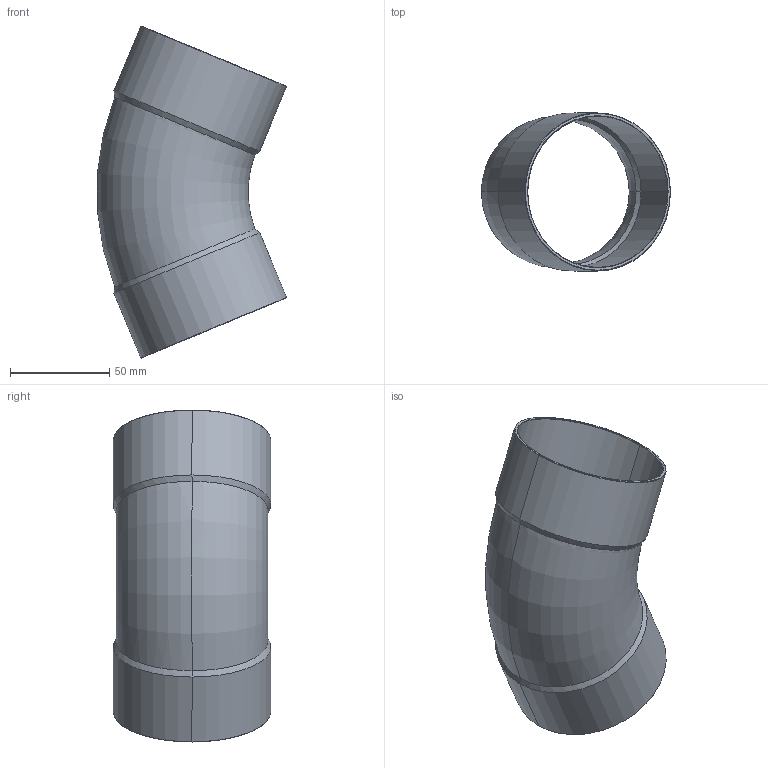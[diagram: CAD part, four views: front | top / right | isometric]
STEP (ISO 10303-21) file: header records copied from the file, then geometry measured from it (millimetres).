
FILE_DESCRIPTION((''),'2;1');
FILE_NAME('P:\Bouwmaten\z-maattekeningen 3D\5000\5040\1504176.stp','2005-10-12T15:45:29',('Kris'),(''),'Autodesk Inventor 8','Autodesk Inventor 8','');
FILE_SCHEMA(('AUTOMOTIVE_DESIGN { 1 0 10303 214 1 1 1 1 }'));
Length unit declared in the file: millimetre
Products named in the file (1): 1504176
Bounding box: 95.03 x 79.3 x 166.93 mm (x, y, z)
Volume: 55434.6 mm3; surface area: 69983.7 mm2
Topology: 1 solids, 1 shells, 30 faces, 60 edges, 32 vertices
Faces by surface type: cone 12, bspline 9, torus 4, cylinder 4, plane 1
Entity records: 1027 total; most frequent: CARTESIAN_POINT 414, DIRECTION 124, ORIENTED_EDGE 120, EDGE_CURVE 60, AXIS2_PLACEMENT_3D 50, VERTEX_POINT 32, EDGE_LOOP 32, FACE_OUTER_BOUND 30
